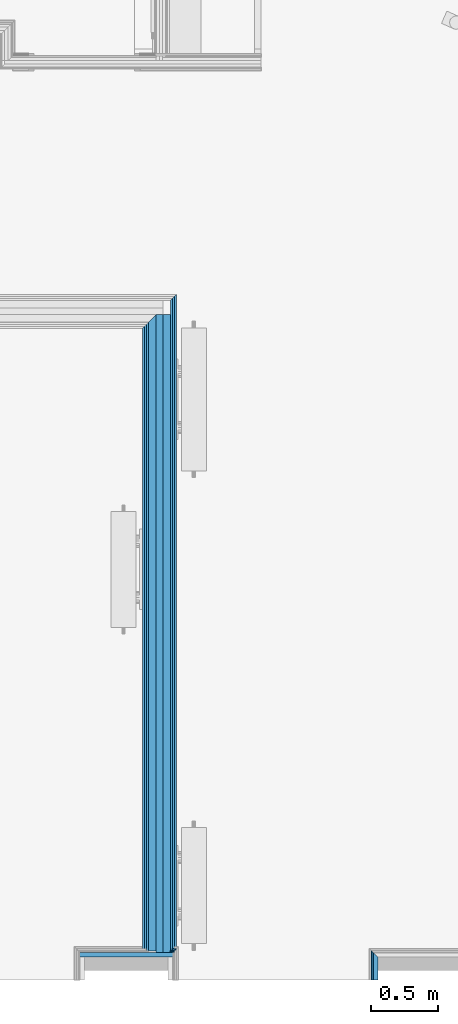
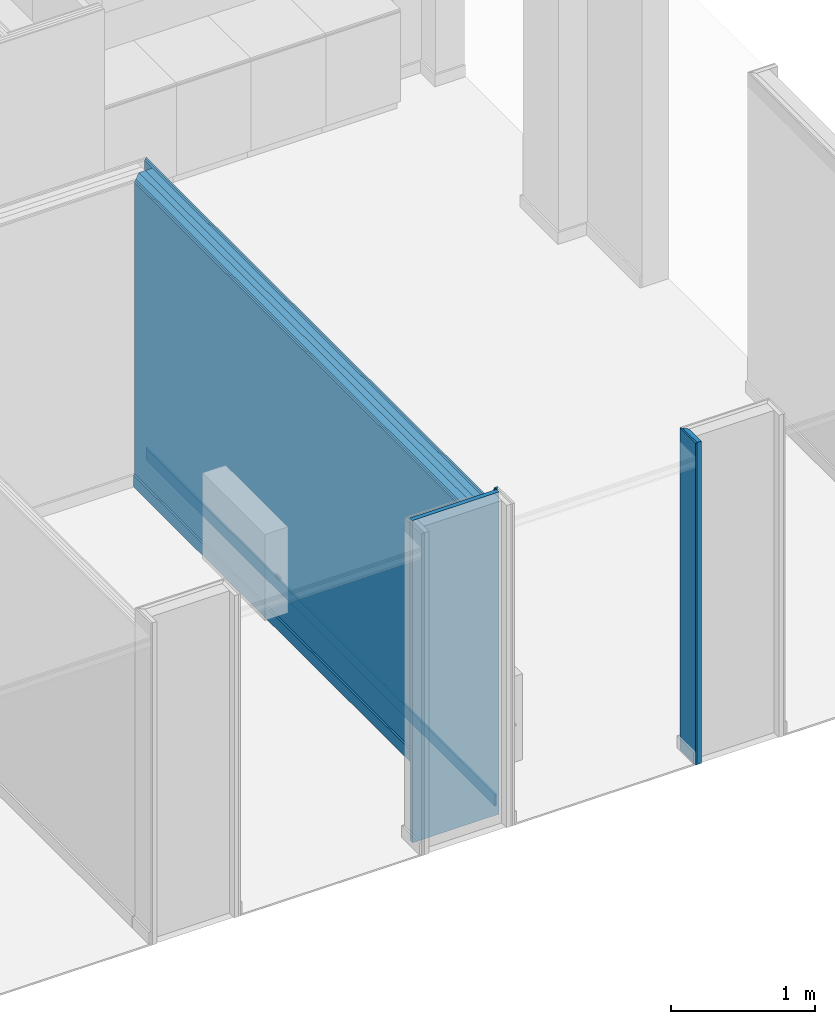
# One storey, part 19 of 85: 14 building element parts, 3 elements without a shape of their own.
"""IFC2X3 building model written with IfcOpenShell, lengths in metres."""

from ifc_helpers import new_model, entity, si_unit, converted_unit, derived_unit, money_unit, direction, frame, frame_2d, origin_with_axes, place, context, subcontext, project, spatial, polyline, rectangle, outline, extrude, material, type_object, element, aggregate, save


model = new_model("IFC2X3")

# Units and contexts
model_context = context("Model", 3, precision=1e-05, world=origin_with_axes(), true_north=direction((0.0, 1.0)))
body_context = subcontext(model_context, "Body", "Model", "MODEL_VIEW", scale=1.0)
ifc_project = project(units=[si_unit("LENGTHUNIT", "METRE"), si_unit("AREAUNIT", "SQUARE_METRE"), si_unit("VOLUMEUNIT", "CUBIC_METRE"), si_unit("ABSORBEDDOSEUNIT", "GRAY"), si_unit("AMOUNTOFSUBSTANCEUNIT", "MOLE"), si_unit("DOSEEQUIVALENTUNIT", "SIEVERT"), si_unit("ELECTRICCAPACITANCEUNIT", "FARAD"), si_unit("ELECTRICCHARGEUNIT", "COULOMB"), si_unit("ELECTRICCONDUCTANCEUNIT", "SIEMENS"), si_unit("ELECTRICCURRENTUNIT", "AMPERE"), si_unit("ELECTRICRESISTANCEUNIT", "OHM"), si_unit("ELECTRICVOLTAGEUNIT", "VOLT"), si_unit("ENERGYUNIT", "JOULE"), si_unit("FORCEUNIT", "NEWTON"), si_unit("FREQUENCYUNIT", "HERTZ"), si_unit("ILLUMINANCEUNIT", "LUX"), si_unit("INDUCTANCEUNIT", "HENRY"), si_unit("LUMINOUSFLUXUNIT", "LUMEN"), si_unit("LUMINOUSINTENSITYUNIT", "CANDELA"), si_unit("MAGNETICFLUXDENSITYUNIT", "TESLA"), si_unit("MAGNETICFLUXUNIT", "WEBER"), si_unit("MASSUNIT", "GRAM"), converted_unit("PLANEANGLEUNIT", "degree", entity("IfcReal", 0.0174532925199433), si_unit("PLANEANGLEUNIT", "RADIAN"), dimensions=[0, 0, 0, 0, 0, 0, 0]), si_unit("POWERUNIT", "WATT"), si_unit("PRESSUREUNIT", "PASCAL"), si_unit("RADIOACTIVITYUNIT", "BECQUEREL"), si_unit("SOLIDANGLEUNIT", "STERADIAN"), si_unit("THERMODYNAMICTEMPERATUREUNIT", "KELVIN"), si_unit("TIMEUNIT", "SECOND"), derived_unit("ACCELERATIONUNIT", [(si_unit("LENGTHUNIT", "METRE"), 1), (si_unit("TIMEUNIT", "SECOND"), -2)]), derived_unit("ANGULARVELOCITYUNIT", [(converted_unit("PLANEANGLEUNIT", "degree", entity("IfcReal", 0.0174532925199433), si_unit("PLANEANGLEUNIT", "RADIAN"), dimensions=[0, 0, 0, 0, 0, 0, 0]), 1), (si_unit("TIMEUNIT", "SECOND"), -1)]), derived_unit("CURVATUREUNIT", [(converted_unit("PLANEANGLEUNIT", "degree", entity("IfcReal", 0.0174532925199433), si_unit("PLANEANGLEUNIT", "RADIAN"), dimensions=[0, 0, 0, 0, 0, 0, 0]), 1), (si_unit("LENGTHUNIT", "METRE"), -1)]), derived_unit("DYNAMICVISCOSITYUNIT", [(si_unit("PRESSUREUNIT", "PASCAL"), 1), (si_unit("TIMEUNIT", "SECOND"), 1)]), derived_unit("HEATFLUXDENSITYUNIT", [(si_unit("POWERUNIT", "WATT"), 1), (si_unit("LENGTHUNIT", "METRE"), -2)]), derived_unit("HEATINGVALUEUNIT", [(si_unit("ENERGYUNIT", "JOULE"), 1), (si_unit("MASSUNIT", "GRAM"), -1)]), derived_unit("INTEGERCOUNTRATEUNIT", [(si_unit("TIMEUNIT", "SECOND"), -1)]), derived_unit("IONCONCENTRATIONUNIT", [(si_unit("MASSUNIT", "GRAM"), 1), (si_unit("VOLUMEUNIT", "CUBIC_METRE"), -1)]), derived_unit("ISOTHERMALMOISTURECAPACITYUNIT", [(si_unit("VOLUMEUNIT", "CUBIC_METRE"), 1), (si_unit("MASSUNIT", "GRAM"), -1)]), derived_unit("KINEMATICVISCOSITYUNIT", [(si_unit("AREAUNIT", "SQUARE_METRE"), 1), (si_unit("TIMEUNIT", "SECOND"), -1)]), derived_unit("LINEARFORCEUNIT", [(si_unit("FORCEUNIT", "NEWTON"), 1), (si_unit("LENGTHUNIT", "METRE"), -1)]), derived_unit("LINEARMOMENTUNIT", [(si_unit("FORCEUNIT", "NEWTON"), 1), (si_unit("LENGTHUNIT", "METRE"), -1)]), derived_unit("LINEARSTIFFNESSUNIT", [(si_unit("FORCEUNIT", "NEWTON"), 1), (si_unit("LENGTHUNIT", "METRE"), -1)]), derived_unit("LINEARVELOCITYUNIT", [(si_unit("LENGTHUNIT", "METRE"), 1), (si_unit("TIMEUNIT", "SECOND"), -1)]), derived_unit("LUMINOUSINTENSITYDISTRIBUTIONUNIT", [(si_unit("LUMINOUSINTENSITYUNIT", "CANDELA"), 1), (si_unit("LUMINOUSFLUXUNIT", "LUMEN"), -1)]), derived_unit("MASSDENSITYUNIT", [(si_unit("MASSUNIT", "GRAM"), 1), (si_unit("VOLUMEUNIT", "CUBIC_METRE"), -1)]), derived_unit("MASSFLOWRATEUNIT", [(si_unit("MASSUNIT", "GRAM"), 1), (si_unit("TIMEUNIT", "SECOND"), -1)]), derived_unit("MASSPERLENGTHUNIT", [(si_unit("MASSUNIT", "GRAM"), 1), (si_unit("LENGTHUNIT", "METRE"), -1)]), derived_unit("MODULUSOFELASTICITYUNIT", [(si_unit("FORCEUNIT", "NEWTON"), 1), (si_unit("AREAUNIT", "SQUARE_METRE"), -1)]), derived_unit("MODULUSOFLINEARSUBGRADEREACTIONUNIT", [(si_unit("FORCEUNIT", "NEWTON"), 1), (si_unit("LENGTHUNIT", "METRE"), -2)]), derived_unit("MODULUSOFROTATIONALSUBGRADEREACTIONUNIT", [(si_unit("FORCEUNIT", "NEWTON"), 1), (si_unit("LENGTHUNIT", "METRE"), 1)]), derived_unit("MODULUSOFSUBGRADEREACTIONUNIT", [(si_unit("FORCEUNIT", "NEWTON"), 1), (si_unit("VOLUMEUNIT", "CUBIC_METRE"), -1)]), derived_unit("MOISTUREDIFFUSIVITYUNIT", [(si_unit("VOLUMEUNIT", "CUBIC_METRE"), 1), (si_unit("TIMEUNIT", "SECOND"), -1)]), derived_unit("MOLECULARWEIGHTUNIT", [(si_unit("MASSUNIT", "GRAM"), 1), (si_unit("AMOUNTOFSUBSTANCEUNIT", "MOLE"), -1)]), derived_unit("PLANARFORCEUNIT", [(si_unit("FORCEUNIT", "NEWTON"), 1), (si_unit("LENGTHUNIT", "METRE"), -2)]), derived_unit("ROTATIONALFREQUENCYUNIT", [(si_unit("TIMEUNIT", "SECOND"), -1)]), derived_unit("ROTATIONALMASSUNIT", [(si_unit("MASSUNIT", "GRAM"), 1), (si_unit("LENGTHUNIT", "METRE"), 2)]), derived_unit("ROTATIONALSTIFFNESSUNIT", [(si_unit("FORCEUNIT", "NEWTON"), 1), (si_unit("LENGTHUNIT", "METRE"), 1), (converted_unit("PLANEANGLEUNIT", "degree", entity("IfcReal", 0.0174532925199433), si_unit("PLANEANGLEUNIT", "RADIAN"), dimensions=[0, 0, 0, 0, 0, 0, 0]), -1)]), derived_unit("SECTIONAREAINTEGRALUNIT", [(si_unit("LENGTHUNIT", "METRE"), 5)]), derived_unit("SECTIONMODULUSUNIT", [(si_unit("LENGTHUNIT", "METRE"), 3)]), derived_unit("SHEARMODULUSUNIT", [(si_unit("FORCEUNIT", "NEWTON"), 1), (si_unit("AREAUNIT", "SQUARE_METRE"), -1)]), derived_unit("SOUNDPOWERUNIT", [(si_unit("ENERGYUNIT", "JOULE"), 1), (si_unit("TIMEUNIT", "SECOND"), -1)]), derived_unit("SPECIFICHEATCAPACITYUNIT", [(si_unit("FORCEUNIT", "NEWTON"), 1), (si_unit("MASSUNIT", "GRAM"), -1), (si_unit("THERMODYNAMICTEMPERATUREUNIT", "KELVIN"), -1)]), derived_unit("TEMPERATUREGRADIENTUNIT", [(si_unit("THERMODYNAMICTEMPERATUREUNIT", "KELVIN"), 1), (si_unit("LENGTHUNIT", "METRE"), -1)]), derived_unit("THERMALADMITTANCEUNIT", [(si_unit("POWERUNIT", "WATT"), 1), (si_unit("AREAUNIT", "SQUARE_METRE"), -1), (si_unit("THERMODYNAMICTEMPERATUREUNIT", "KELVIN"), -1)]), derived_unit("THERMALCONDUCTANCEUNIT", [(si_unit("POWERUNIT", "WATT"), 1), (si_unit("LENGTHUNIT", "METRE"), -1), (si_unit("THERMODYNAMICTEMPERATUREUNIT", "KELVIN"), -1)]), derived_unit("THERMALEXPANSIONCOEFFICIENTUNIT", [(si_unit("THERMODYNAMICTEMPERATUREUNIT", "KELVIN"), -1)]), derived_unit("THERMALRESISTANCEUNIT", [(si_unit("AREAUNIT", "SQUARE_METRE"), 1), (si_unit("POWERUNIT", "WATT"), -1)]), derived_unit("THERMALTRANSMITTANCEUNIT", [(si_unit("POWERUNIT", "WATT"), 1), (si_unit("AREAUNIT", "SQUARE_METRE"), -1), (si_unit("THERMODYNAMICTEMPERATUREUNIT", "KELVIN"), -1)]), derived_unit("TORQUEUNIT", [(si_unit("FORCEUNIT", "NEWTON"), 1), (si_unit("LENGTHUNIT", "METRE"), 1)]), derived_unit("VAPORPERMEABILITYUNIT", [(si_unit("MASSUNIT", "GRAM"), 1), (si_unit("TIMEUNIT", "SECOND"), -1)]), derived_unit("VOLUMETRICFLOWRATEUNIT", [(si_unit("VOLUMEUNIT", "CUBIC_METRE"), 1), (si_unit("TIMEUNIT", "SECOND"), -1)]), derived_unit("WARPINGCONSTANTUNIT", [(si_unit("LENGTHUNIT", "METRE"), 6)]), derived_unit("WARPINGMOMENTUNIT", [(si_unit("FORCEUNIT", "NEWTON"), 1), (si_unit("LENGTHUNIT", "METRE"), 2)]), money_unit("GBP")], contexts=[model_context])

# Site, building, storey
site_placement = place(None, origin_with_axes())
site = spatial("IfcSite", under=ifc_project, at=site_placement, Name="Site", CompositionType="ELEMENT")
building_placement = place(site_placement, origin_with_axes())
building = spatial("IfcBuilding", under=site, at=building_placement, Name="Building01", CompositionType="ELEMENT")
storey_placement = place(building_placement, frame((0.0, 0.0, 12.13), z_axis=(0.0, 0.0, 1.0), x_axis=(1.0, 0.0, 0.0)))
storey = spatial("IfcBuildingStorey", under=building, at=storey_placement, Name="3F", CompositionType="ELEMENT", Elevation=12.13)

# Wall, building element parts
wall_type_1 = type_object("IfcWallType", Name="SHE_A-Walls_Type01c_Partywall_225mm_twin_tall", PredefinedType="NOTDEFINED")
wall_1_placement = place(storey_placement, frame((22.488, 5.068, 0.0), z_axis=(0.0, 0.0, 1.0), x_axis=(0.0, -1.0, 0.0)))
wall_1 = element("IfcWall", 1, at=wall_1_placement, inside=storey, type_object=wall_type_1, Name="1C", ObjectType="SHE_A-Walls_Type01c_Partywall_225mm_twin_tall")
ifc_material_1 = material(Name="A_BSUK_Walls_Timber")
placement_1 = place(wall_1_placement, origin_with_axes())
building_element_part_1 = element("IfcBuildingElementPart", 2, at=placement_1, material=ifc_material_1, Name="1", context=body_context, shape_type="SweptSolid", body=[
    extrude(outline(polyline([(4.735, -0.088), (0.088, -0.088), (0.103, -0.103), (4.735, -0.103), (4.735, -0.088)])), frame((0.0, 0.0, 0.015), z_axis=(0.0, 0.0, 1.0), x_axis=(1.0, 0.0, 0.0)), (0.0, 0.0, 1.0), 0.1),
])
ifc_material_2 = material(Name="A_BSUK_WallInternal_Finishes_Plasterboard")
building_element_part_2 = element("IfcBuildingElementPart", 3, at=placement_1, material=ifc_material_2, Name="2", context=body_context, shape_type="SweptSolid", body=[
    extrude(outline(polyline([(4.735, -0.073), (0.073, -0.073), (0.088, -0.088), (4.735, -0.088), (4.735, -0.073)])), origin_with_axes(), (0.0, 0.0, 1.0), 2.59),
])
building_element_part_3 = element("IfcBuildingElementPart", 4, at=placement_1, material=ifc_material_2, Name="3", context=body_context, shape_type="SweptSolid", body=[
    extrude(outline(polyline([(4.75, -0.058), (0.058, -0.058), (0.073, -0.073), (4.75, -0.073), (4.75, -0.058)])), origin_with_axes(), (0.0, 0.0, 1.0), 2.59),
])
ifc_material_3 = material(Name="Air Cavity")
building_element_part_4 = element("IfcBuildingElementPart", 5, at=placement_1, material=ifc_material_3, Name="4", context=body_context, shape_type="SweptSolid", body=[
    extrude(outline(polyline([(4.75, 0.0), (0.0, 0.0), (0.058, -0.058), (4.75, -0.058), (4.75, 0.0)])), origin_with_axes(), (0.0, 0.0, 1.0), 2.59),
])
ifc_material_4 = material(Name="A_BSUK_Insulation")
building_element_part_5 = element("IfcBuildingElementPart", 6, at=placement_1, material=ifc_material_4, Name="5", context=body_context, shape_type="SweptSolid", body=[
    extrude(rectangle(XDim=4.762, YDim=0.05, at=frame_2d((2.381, 0.025), x_axis=(-1.0, 0.0))), origin_with_axes(), (0.0, 0.0, 1.0), 2.59),
])
building_element_part_6 = element("IfcBuildingElementPart", 7, at=placement_1, material=ifc_material_3, Name="6", context=body_context, shape_type="SweptSolid", body=[
    extrude(rectangle(XDim=4.762, YDim=0.057, at=frame_2d((2.381, 0.0785), x_axis=(-1.0, 0.0))), origin_with_axes(), (0.0, 0.0, 1.0), 2.59),
])
building_element_part_7 = element("IfcBuildingElementPart", 8, at=placement_1, material=ifc_material_2, Name="7", context=body_context, shape_type="SweptSolid", body=[
    extrude(outline(polyline([(-0.122, 0.122), (-0.107, 0.107), (4.75, 0.107), (4.75, 0.122), (-0.122, 0.122)])), origin_with_axes(), (0.0, 0.0, 1.0), 2.59),
])
building_element_part_8 = element("IfcBuildingElementPart", 9, at=placement_1, material=ifc_material_2, Name="8", context=body_context, shape_type="SweptSolid", body=[
    extrude(outline(polyline([(-0.137, 0.137), (-0.122, 0.122), (4.735, 0.122), (4.735, 0.137), (-0.137, 0.137)])), origin_with_axes(), (0.0, 0.0, 1.0), 2.59),
])
building_element_part_9 = element("IfcBuildingElementPart", 10, at=placement_1, material=ifc_material_1, Name="9", context=body_context, shape_type="SweptSolid", body=[
    extrude(outline(polyline([(-0.152, 0.152), (-0.137, 0.137), (4.72, 0.137), (4.72, 0.152), (-0.152, 0.152)])), frame((0.0, 0.0, 0.015), z_axis=(0.0, 0.0, 1.0), x_axis=(1.0, 0.0, 0.0)), (0.0, 0.0, 1.0), 0.1),
])
aggregate(wall_1, [building_element_part_1, building_element_part_2, building_element_part_3, building_element_part_4, building_element_part_5, building_element_part_6, building_element_part_7, building_element_part_8, building_element_part_9])

wall_type_2 = type_object("IfcWallType", Name="SHE_A-Walls_Type06d_ExternalWallInsulation_48mm", PredefinedType="NOTDEFINED")
wall_2_placement = place(storey_placement, frame((24.143, 0.1, 0.0), z_axis=(0.0, 0.0, 1.0), x_axis=(0.0, 1.0, 0.0)))
wall_2 = element("IfcWall", 11, at=wall_2_placement, inside=storey, type_object=wall_type_2, Name="6D", ObjectType="SHE_A-Walls_Type06d_ExternalWallInsulation_48mm")
placement_2 = place(wall_2_placement, origin_with_axes())
building_element_part_10 = element("IfcBuildingElementPart", 12, at=placement_2, material=ifc_material_4, Name="1", context=body_context, shape_type="SweptSolid", body=[
    extrude(outline(polyline([(0.206, 0.036), (0.0, 0.036), (0.0, 0.0), (0.17, 0.0), (0.206, 0.036)])), origin_with_axes(), (0.0, 0.0, 1.0), 2.74),
])
building_element_part_11 = element("IfcBuildingElementPart", 13, at=placement_2, material=ifc_material_2, Name="2", context=body_context, shape_type="SweptSolid", body=[
    extrude(outline(polyline([(0.218, 0.048), (0.0, 0.048), (0.0, 0.035), (0.205, 0.035), (0.218, 0.048)])), origin_with_axes(), (0.0, 0.0, 1.0), 2.74),
])
aggregate(wall_2, [building_element_part_10, building_element_part_11])

wall_type_3 = type_object("IfcWallType", Name="SHE_A-Walls_Type06f_ExternalWallInsulation_48+15mm", PredefinedType="NOTDEFINED")
wall_3_placement = place(storey_placement, frame((22.613124, 0.27, 0.0), z_axis=(0.0, 0.0, 1.0), x_axis=(-1.0, 0.0, 0.0)))
wall_3 = element("IfcWall", 14, at=wall_3_placement, inside=storey, type_object=wall_type_3, Name="6F", ObjectType="SHE_A-Walls_Type06f_ExternalWallInsulation_48+15mm")
placement_3 = place(wall_3_placement, origin_with_axes())
building_element_part_12 = element("IfcBuildingElementPart", 15, at=placement_3, material=ifc_material_2, Name="3", context=body_context, shape_type="SweptSolid", body=[
    extrude(outline(polyline([(-0.012, -0.048), (-0.027, -0.063), (0.003124, -0.063), (0.003124, -0.048), (-0.012, -0.048)])), origin_with_axes(), (0.0, 0.0, 1.0), 2.74),
])
building_element_part_13 = element("IfcBuildingElementPart", 16, at=placement_3, material=ifc_material_2, Name="5", context=body_context, shape_type="SweptSolid", body=[
    extrude(rectangle(XDim=0.012, YDim=0.030124, at=frame_2d((0.003062, -0.042), x_axis=(0.0, -1.0))), origin_with_axes(), (0.0, 0.0, 1.0), 2.74),
])
building_element_part_14 = element("IfcBuildingElementPart", 17, at=placement_3, material=ifc_material_4, Name="7", context=body_context, shape_type="SweptSolid", body=[
    extrude(rectangle(XDim=0.696124, YDim=0.036, at=frame_2d((0.348062, -0.018), x_axis=(-1.0, 0.0))), origin_with_axes(), (0.0, 0.0, 1.0), 2.74),
])
aggregate(wall_3, [building_element_part_12, building_element_part_13, building_element_part_14])

save(model, "model.ifc")
